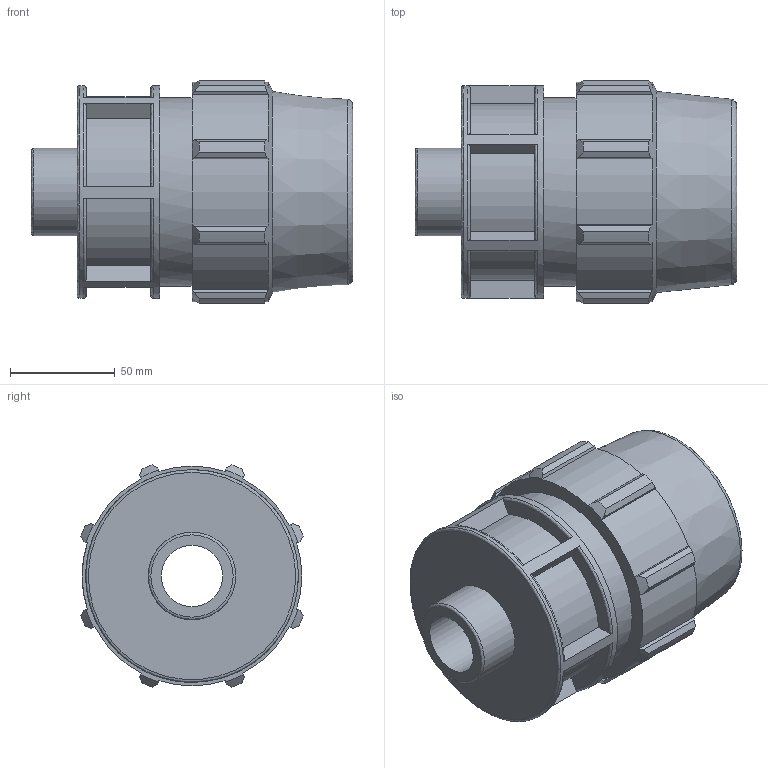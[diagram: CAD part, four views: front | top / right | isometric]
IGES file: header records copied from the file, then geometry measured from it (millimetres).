
Global section: file name: 070200063013_180200063013_0702060630130A.ipt; native system: Autodesk Inventor 2015; preprocessor: unknown; author: KIM; date: 20170606.110218; units: millimetre
Bounding box: 154 x 106.32 x 106.32 mm (x, y, z)
Volume: 571573 mm3; surface area: 96197.8 mm2
Topology: 1 solids, 1 shells, 117 faces, 321 edges, 216 vertices
Faces by surface type: plane 63, cylinder 25, revolution 19, cone 10
Full cylindrical faces by diameter (mm): 41.91 x1, 90.4 x1, 101.7 x1
